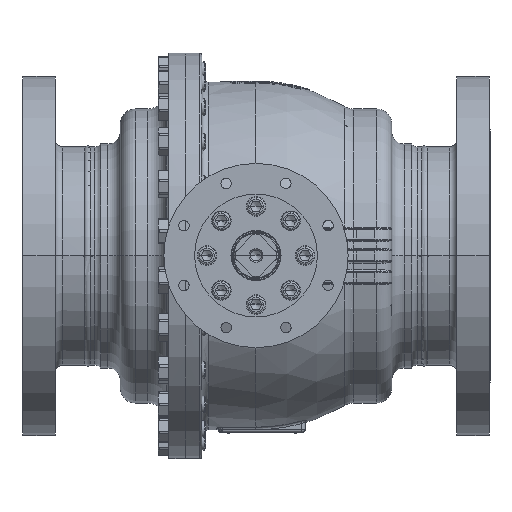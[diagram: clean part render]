
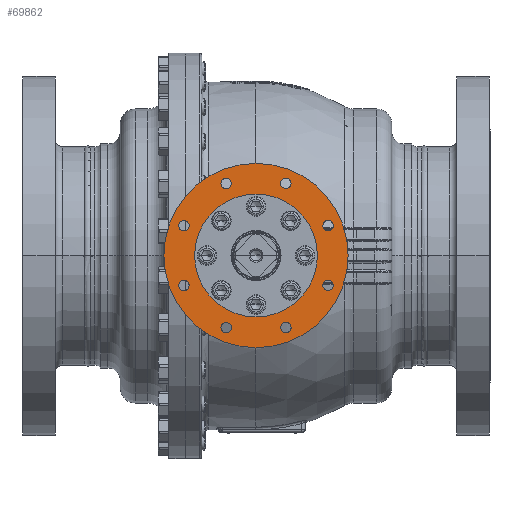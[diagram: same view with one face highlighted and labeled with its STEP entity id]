
A CAD part, top view. The second image highlights one B-rep face of the part: STEP entity #69862.
In plain terms, the highlighted planar face has unit normal (0, 0, 1).
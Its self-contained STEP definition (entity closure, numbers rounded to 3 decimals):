
#2970=CARTESIAN_POINT('',(0.,0.,440.));
#2971=DIRECTION('',(0.,0.,1.));
#2972=DIRECTION('',(1.,0.,0.));
#2973=AXIS2_PLACEMENT_3D('',#2970,#2971,#2972);
#2975=CARTESIAN_POINT('',(0.,0.,440.));
#2976=DIRECTION('',(0.,0.,-1.));
#2977=DIRECTION('',(1.,0.,0.));
#2978=AXIS2_PLACEMENT_3D('',#2975,#2976,#2977);
#2980=CARTESIAN_POINT('',(-117.333,48.601,440.));
#2981=DIRECTION('',(0.,0.,-1.));
#2982=DIRECTION('',(-1.,0.,0.));
#2983=AXIS2_PLACEMENT_3D('',#2980,#2981,#2982);
#2985=CARTESIAN_POINT('',(-117.333,48.601,440.));
#2986=DIRECTION('',(0.,0.,-1.));
#2987=DIRECTION('',(1.,0.,0.));
#2988=AXIS2_PLACEMENT_3D('',#2985,#2986,#2987);
#2990=CARTESIAN_POINT('',(-48.601,117.333,440.));
#2991=DIRECTION('',(0.,0.,-1.));
#2992=DIRECTION('',(-0.707,0.707,0.));
#2993=AXIS2_PLACEMENT_3D('',#2990,#2991,#2992);
#2995=CARTESIAN_POINT('',(-48.601,117.333,440.));
#2996=DIRECTION('',(0.,0.,-1.));
#2997=DIRECTION('',(0.707,-0.707,0.));
#2998=AXIS2_PLACEMENT_3D('',#2995,#2996,#2997);
#3000=CARTESIAN_POINT('',(48.601,117.333,440.));
#3001=DIRECTION('',(0.,0.,-1.));
#3002=DIRECTION('',(0.,1.,0.));
#3003=AXIS2_PLACEMENT_3D('',#3000,#3001,#3002);
#3005=CARTESIAN_POINT('',(48.601,117.333,440.));
#3006=DIRECTION('',(0.,0.,-1.));
#3007=DIRECTION('',(0.,-1.,0.));
#3008=AXIS2_PLACEMENT_3D('',#3005,#3006,#3007);
#3010=CARTESIAN_POINT('',(117.333,48.601,440.));
#3011=DIRECTION('',(0.,0.,-1.));
#3012=DIRECTION('',(0.707,0.707,0.));
#3013=AXIS2_PLACEMENT_3D('',#3010,#3011,#3012);
#3015=CARTESIAN_POINT('',(117.333,48.601,440.));
#3016=DIRECTION('',(0.,0.,-1.));
#3017=DIRECTION('',(-0.707,-0.707,0.));
#3018=AXIS2_PLACEMENT_3D('',#3015,#3016,#3017);
#3020=CARTESIAN_POINT('',(117.333,-48.601,440.));
#3021=DIRECTION('',(0.,0.,-1.));
#3022=DIRECTION('',(1.,0.,0.));
#3023=AXIS2_PLACEMENT_3D('',#3020,#3021,#3022);
#3025=CARTESIAN_POINT('',(117.333,-48.601,440.));
#3026=DIRECTION('',(0.,0.,-1.));
#3027=DIRECTION('',(-1.,0.,0.));
#3028=AXIS2_PLACEMENT_3D('',#3025,#3026,#3027);
#3030=CARTESIAN_POINT('',(48.601,-117.333,440.));
#3031=DIRECTION('',(0.,0.,-1.));
#3032=DIRECTION('',(0.707,-0.707,0.));
#3033=AXIS2_PLACEMENT_3D('',#3030,#3031,#3032);
#3035=CARTESIAN_POINT('',(48.601,-117.333,440.));
#3036=DIRECTION('',(0.,0.,-1.));
#3037=DIRECTION('',(-0.707,0.707,0.));
#3038=AXIS2_PLACEMENT_3D('',#3035,#3036,#3037);
#3040=CARTESIAN_POINT('',(-48.601,-117.333,440.));
#3041=DIRECTION('',(0.,0.,-1.));
#3042=DIRECTION('',(0.,-1.,0.));
#3043=AXIS2_PLACEMENT_3D('',#3040,#3041,#3042);
#3045=CARTESIAN_POINT('',(-48.601,-117.333,440.));
#3046=DIRECTION('',(0.,0.,-1.));
#3047=DIRECTION('',(0.,1.,0.));
#3048=AXIS2_PLACEMENT_3D('',#3045,#3046,#3047);
#3050=CARTESIAN_POINT('',(-117.333,-48.601,440.));
#3051=DIRECTION('',(0.,0.,-1.));
#3052=DIRECTION('',(-0.707,-0.707,0.));
#3053=AXIS2_PLACEMENT_3D('',#3050,#3051,#3052);
#3055=CARTESIAN_POINT('',(-117.333,-48.601,440.));
#3056=DIRECTION('',(0.,0.,-1.));
#3057=DIRECTION('',(0.707,0.707,0.));
#3058=AXIS2_PLACEMENT_3D('',#3055,#3056,#3057);
#3064=CARTESIAN_POINT('',(0.,0.,440.));
#3065=DIRECTION('',(0.,0.,-1.));
#3066=DIRECTION('',(1.,0.,0.));
#3067=AXIS2_PLACEMENT_3D('',#3064,#3065,#3066);
#3073=CARTESIAN_POINT('',(0.,0.,440.));
#3074=DIRECTION('',(0.,0.,1.));
#3075=DIRECTION('',(1.,0.,0.));
#3076=AXIS2_PLACEMENT_3D('',#3073,#3074,#3075);
#65771=CARTESIAN_POINT('',(100.,0.,440.));
#65773=VERTEX_POINT('',#65771);
#65775=CARTESIAN_POINT('',(-100.,0.,440.));
#65777=VERTEX_POINT('',#65775);
#65847=CARTESIAN_POINT('',(-125.833,48.601,440.));
#65848=CARTESIAN_POINT('',(-108.833,48.601,440.));
#65849=VERTEX_POINT('',#65847);
#65850=VERTEX_POINT('',#65848);
#65853=CARTESIAN_POINT('',(-54.611,123.343,440.));
#65854=CARTESIAN_POINT('',(-42.59,111.322,440.));
#65855=VERTEX_POINT('',#65853);
#65856=VERTEX_POINT('',#65854);
#65859=CARTESIAN_POINT('',(48.601,125.833,440.));
#65860=CARTESIAN_POINT('',(48.601,108.833,440.));
#65861=VERTEX_POINT('',#65859);
#65862=VERTEX_POINT('',#65860);
#65865=CARTESIAN_POINT('',(123.343,54.611,440.));
#65866=CARTESIAN_POINT('',(111.322,42.59,440.));
#65867=VERTEX_POINT('',#65865);
#65868=VERTEX_POINT('',#65866);
#65880=CARTESIAN_POINT('',(150.,0.,440.));
#65882=VERTEX_POINT('',#65880);
#65884=CARTESIAN_POINT('',(-150.,0.,440.));
#65886=VERTEX_POINT('',#65884);
#65895=CARTESIAN_POINT('',(125.833,-48.601,440.));
#65896=CARTESIAN_POINT('',(108.833,-48.601,440.));
#65897=VERTEX_POINT('',#65895);
#65898=VERTEX_POINT('',#65896);
#65903=CARTESIAN_POINT('',(54.611,-123.343,440.));
#65904=CARTESIAN_POINT('',(42.59,-111.322,440.));
#65905=VERTEX_POINT('',#65903);
#65906=VERTEX_POINT('',#65904);
#65911=CARTESIAN_POINT('',(-48.601,-125.833,440.));
#65912=CARTESIAN_POINT('',(-48.601,-108.833,440.));
#65913=VERTEX_POINT('',#65911);
#65914=VERTEX_POINT('',#65912);
#65919=CARTESIAN_POINT('',(-123.343,-54.611,440.));
#65920=CARTESIAN_POINT('',(-111.322,-42.59,440.));
#65921=VERTEX_POINT('',#65919);
#65922=VERTEX_POINT('',#65920);
#69799=CARTESIAN_POINT('',(0.,0.,440.));
#69800=DIRECTION('',(0.,0.,1.));
#69801=DIRECTION('',(1.,0.,0.));
#69802=AXIS2_PLACEMENT_3D('',#69799,#69800,#69801);
#69803=PLANE('',#69802);
#69804=ORIENTED_EDGE('',*,*,#69792,.F.);
#69805=ORIENTED_EDGE('',*,*,#69781,.T.);
#69806=EDGE_LOOP('',(#69804,#69805));
#69807=FACE_OUTER_BOUND('',#69806,.F.);
#69809=ORIENTED_EDGE('',*,*,#69808,.F.);
#69811=ORIENTED_EDGE('',*,*,#69810,.T.);
#69812=EDGE_LOOP('',(#69809,#69811));
#69813=FACE_BOUND('',#69812,.F.);
#69815=ORIENTED_EDGE('',*,*,#69814,.F.);
#69817=ORIENTED_EDGE('',*,*,#69816,.F.);
#69818=EDGE_LOOP('',(#69815,#69817));
#69819=FACE_BOUND('',#69818,.F.);
#69821=ORIENTED_EDGE('',*,*,#69820,.F.);
#69823=ORIENTED_EDGE('',*,*,#69822,.F.);
#69824=EDGE_LOOP('',(#69821,#69823));
#69825=FACE_BOUND('',#69824,.F.);
#69827=ORIENTED_EDGE('',*,*,#69826,.F.);
#69829=ORIENTED_EDGE('',*,*,#69828,.F.);
#69830=EDGE_LOOP('',(#69827,#69829));
#69831=FACE_BOUND('',#69830,.F.);
#69833=ORIENTED_EDGE('',*,*,#69832,.F.);
#69835=ORIENTED_EDGE('',*,*,#69834,.F.);
#69836=EDGE_LOOP('',(#69833,#69835));
#69837=FACE_BOUND('',#69836,.F.);
#69839=ORIENTED_EDGE('',*,*,#69838,.F.);
#69841=ORIENTED_EDGE('',*,*,#69840,.F.);
#69842=EDGE_LOOP('',(#69839,#69841));
#69843=FACE_BOUND('',#69842,.F.);
#69845=ORIENTED_EDGE('',*,*,#69844,.F.);
#69847=ORIENTED_EDGE('',*,*,#69846,.F.);
#69848=EDGE_LOOP('',(#69845,#69847));
#69849=FACE_BOUND('',#69848,.F.);
#69851=ORIENTED_EDGE('',*,*,#69850,.F.);
#69853=ORIENTED_EDGE('',*,*,#69852,.F.);
#69854=EDGE_LOOP('',(#69851,#69853));
#69855=FACE_BOUND('',#69854,.F.);
#69857=ORIENTED_EDGE('',*,*,#69856,.F.);
#69859=ORIENTED_EDGE('',*,*,#69858,.F.);
#69860=EDGE_LOOP('',(#69857,#69859));
#69861=FACE_BOUND('',#69860,.F.);
#69862=ADVANCED_FACE('',(#69807,#69813,#69819,#69825,#69831,#69837,#69843,
#69849,#69855,#69861),#69803,.T.);
#2974=CIRCLE('',#2973,150.);
#2979=CIRCLE('',#2978,150.);
#2984=CIRCLE('',#2983,8.5);
#2989=CIRCLE('',#2988,8.5);
#2994=CIRCLE('',#2993,8.5);
#2999=CIRCLE('',#2998,8.5);
#3004=CIRCLE('',#3003,8.5);
#3009=CIRCLE('',#3008,8.5);
#3014=CIRCLE('',#3013,8.5);
#3019=CIRCLE('',#3018,8.5);
#3024=CIRCLE('',#3023,8.5);
#3029=CIRCLE('',#3028,8.5);
#3034=CIRCLE('',#3033,8.5);
#3039=CIRCLE('',#3038,8.5);
#3044=CIRCLE('',#3043,8.5);
#3049=CIRCLE('',#3048,8.5);
#3054=CIRCLE('',#3053,8.5);
#3059=CIRCLE('',#3058,8.5);
#3068=CIRCLE('',#3067,100.);
#3077=CIRCLE('',#3076,100.);
#69781=EDGE_CURVE('',#65882,#65886,#2979,.T.);
#69792=EDGE_CURVE('',#65882,#65886,#2974,.T.);
#69808=EDGE_CURVE('',#65773,#65777,#3068,.T.);
#69810=EDGE_CURVE('',#65773,#65777,#3077,.T.);
#69814=EDGE_CURVE('',#65849,#65850,#2984,.T.);
#69816=EDGE_CURVE('',#65850,#65849,#2989,.T.);
#69820=EDGE_CURVE('',#65855,#65856,#2994,.T.);
#69822=EDGE_CURVE('',#65856,#65855,#2999,.T.);
#69826=EDGE_CURVE('',#65861,#65862,#3004,.T.);
#69828=EDGE_CURVE('',#65862,#65861,#3009,.T.);
#69832=EDGE_CURVE('',#65867,#65868,#3014,.T.);
#69834=EDGE_CURVE('',#65868,#65867,#3019,.T.);
#69838=EDGE_CURVE('',#65897,#65898,#3024,.T.);
#69840=EDGE_CURVE('',#65898,#65897,#3029,.T.);
#69844=EDGE_CURVE('',#65905,#65906,#3034,.T.);
#69846=EDGE_CURVE('',#65906,#65905,#3039,.T.);
#69850=EDGE_CURVE('',#65913,#65914,#3044,.T.);
#69852=EDGE_CURVE('',#65914,#65913,#3049,.T.);
#69856=EDGE_CURVE('',#65921,#65922,#3054,.T.);
#69858=EDGE_CURVE('',#65922,#65921,#3059,.T.);
